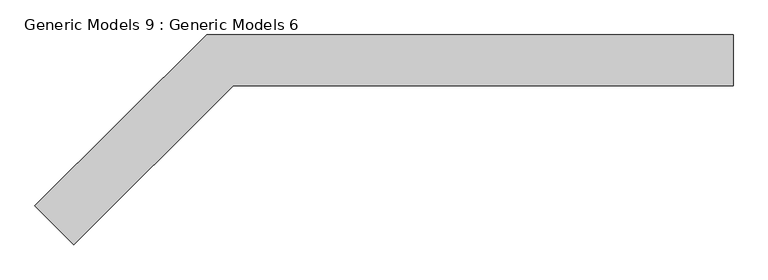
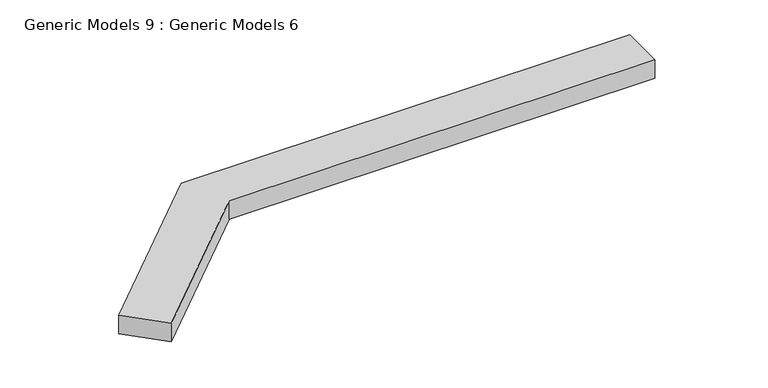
"""IFC4 building model written with IfcOpenShell, lengths in millimetres: proxy geometry, Generic Models 9 : Generic Models 6."""

import ifcopenshell
import ifcopenshell.guid

model = None  # the IFC model being written
_history = None  # IfcOwnerHistory: only IFC2X3 demands one
_inside = {}  # id of a spatial element -> (the spatial element, [elements in it])
_under = {}  # id of a project, library or spatial element -> (it, [spatial elements below it])
_declared = {}  # id of a project -> (the project, [libraries it declares])
_typed = {}  # id of a type object -> (the type object, [elements of that type])
_made_of = {}  # id of a material, layer set ... -> (it, [elements and type objects made of it])


def new_model(schema):
    """Start an empty IFC model of exactly this schema.

    Asked for "IFC4X3", IfcOpenShell would pick the latest addendum, in which some entities
    have other attributes; the version numbers below select the first issue.
    IFC2X3 requires an IfcOwnerHistory on every rooted entity: one is made here for all.
    """
    global model, _history
    if schema == "IFC4X3":
        model = ifcopenshell.file(schema_version=(4, 3, 0, 0))
    else:
        model = ifcopenshell.file(schema=schema)
    _inside.clear()
    _under.clear()
    _declared.clear()
    _typed.clear()
    _made_of.clear()
    _history = None
    if model.schema == "IFC2X3":
        org = make("IfcOrganization", Name="unknown")
        user = make(
            "IfcPersonAndOrganization",
            ThePerson=make("IfcPerson", FamilyName="unknown"),
            TheOrganization=org,
        )
        app = make(
            "IfcApplication",
            ApplicationDeveloper=org,
            Version="unknown",
            ApplicationFullName="unknown",
            ApplicationIdentifier="unknown",
        )
        _history = make(
            "IfcOwnerHistory",
            OwningUser=user,
            OwningApplication=app,
            ChangeAction="ADDED",
            CreationDate=0,
        )
    return model


def make(cls, **values):
    """One entity of the class cls with the attributes given. An attribute that is None is left unset."""
    return model.create_entity(
        cls, **{name: value for name, value in values.items() if value is not None}
    )


def rooted(cls, **values):
    """An entity with a GlobalId (a new one), such as an element, a storey or a relation."""
    return make(cls, GlobalId=ifcopenshell.guid.new(), OwnerHistory=_history, **values)


def si_unit(unit_type, name, prefix=None):
    """IfcSIUnit, for example si_unit("LENGTHUNIT", "METRE", prefix="MILLI")."""
    return make("IfcSIUnit", UnitType=unit_type, Prefix=prefix, Name=name)


def assignment(units):
    """IfcUnitAssignment: the units of a project."""
    return None if units is None else make("IfcUnitAssignment", Units=units)


def point(xyz):
    """IfcCartesianPoint."""
    return None if xyz is None else make("IfcCartesianPoint", Coordinates=xyz)


def direction(xyz):
    """IfcDirection."""
    return None if xyz is None else make("IfcDirection", DirectionRatios=xyz)


def frame(location, z_axis=None, x_axis=None):
    """IfcAxis2Placement3D, a coordinate frame: its origin and axes. An axis left out is left unset."""
    return make(
        "IfcAxis2Placement3D",
        Location=point(location),
        Axis=direction(z_axis),
        RefDirection=direction(x_axis),
    )


def origin():
    """The frame at (0, 0, 0) with its axes left unset."""
    return frame((0.0, 0.0, 0.0))


def place(relative_to, where):
    """IfcLocalPlacement: puts the frame where relative to a parent placement (None: the world)."""
    return make(
        "IfcLocalPlacement", PlacementRelTo=relative_to, RelativePlacement=where
    )


def context(
    kind, dimensions, precision=None, world=None, true_north=None, identifier=None
):
    """IfcGeometricRepresentationContext, for example the 3D "Model" context."""
    return make(
        "IfcGeometricRepresentationContext",
        ContextIdentifier=identifier,
        ContextType=kind,
        CoordinateSpaceDimension=dimensions,
        Precision=precision,
        WorldCoordinateSystem=world,
        TrueNorth=true_north,
    )


def project(units=None, contexts=None):
    """IfcProject with its units and contexts."""
    return rooted(
        "IfcProject",
        Name="project",
        RepresentationContexts=contexts,
        UnitsInContext=assignment(units),
    )


def spatial(cls, under=None, at=None, **own):
    """A site, building, storey or space (cls), placed at a placement, below another one or the project."""
    s = rooted(cls, ObjectPlacement=at, **own)
    if under is not None:
        _under.setdefault(under.id(), (under, []))[1].append(s)
    return s


def polyline(points):
    """IfcPolyline through the points."""
    return make("IfcPolyline", Points=[point(p) for p in points])


def outline(outer, holes=None, kind="AREA"):
    """IfcArbitraryClosedProfileDef: a profile drawn as a closed curve; with holes, ...WithVoids."""
    if holes is None:
        return make("IfcArbitraryClosedProfileDef", ProfileType=kind, OuterCurve=outer)
    return make(
        "IfcArbitraryProfileDefWithVoids",
        ProfileType=kind,
        OuterCurve=outer,
        InnerCurves=holes,
    )


def extrude(swept, where, along, depth):
    """IfcExtrudedAreaSolid: the profile swept, set in the frame where, extruded along a direction by depth."""
    return make(
        "IfcExtrudedAreaSolid",
        SweptArea=swept,
        Position=where,
        ExtrudedDirection=direction(along),
        Depth=depth,
    )


def shape(context_of_items, identifier, shape_type, items):
    """IfcShapeRepresentation: the items that make up one representation, for example the "Body"."""
    return make(
        "IfcShapeRepresentation",
        ContextOfItems=context_of_items,
        RepresentationIdentifier=identifier,
        RepresentationType=shape_type,
        Items=items,
    )


def source(mapping_origin, context_of_items, identifier, shape_type, items):
    """IfcRepresentationMap: a shape defined once, which mapped items show again and again."""
    return make(
        "IfcRepresentationMap",
        MappingOrigin=mapping_origin,
        MappedRepresentation=shape(context_of_items, identifier, shape_type, items),
    )


def transform(
    local_origin,
    x_axis=None,
    y_axis=None,
    z_axis=None,
    scale=None,
    scale2=None,
    scale3=None,
    uniform=True,
):
    """IfcCartesianTransformationOperator3D, or its non-uniform kind. x_axis, y_axis, z_axis: its Axis1, 2, 3."""
    if uniform:
        return make(
            "IfcCartesianTransformationOperator3D",
            Axis1=direction(x_axis),
            Axis2=direction(y_axis),
            LocalOrigin=point(local_origin),
            Scale=scale,
            Axis3=direction(z_axis),
        )
    return make(
        "IfcCartesianTransformationOperator3DnonUniform",
        Axis1=direction(x_axis),
        Axis2=direction(y_axis),
        LocalOrigin=point(local_origin),
        Scale=scale,
        Axis3=direction(z_axis),
        Scale2=scale2,
        Scale3=scale3,
    )


def mapped(mapping_source, mapping_target):
    """IfcMappedItem: shows the shape of a source again, moved by a transform."""
    return make(
        "IfcMappedItem", MappingSource=mapping_source, MappingTarget=mapping_target
    )


def made_of(thing, what):
    """Note that an element or type object is made of a material, layer set ...; save() writes the relation."""
    if what is not None:
        _made_of.setdefault(what.id(), (what, []))[1].append(thing)
    return thing


def element(
    cls,
    number,
    at=None,
    inside=None,
    cuts=None,
    type_object=None,
    material=None,
    context=None,
    identifier="Body",
    shape_type=None,
    held_by="IfcProductDefinitionShape",
    body=None,
    shapes=None,
    **own,
):
    """One element of the class cls, such as IfcWall. Its Tag is "e" and its number.

    at: its placement. inside: the storey or other place that contains it. cuts: it is an
    opening in that element (IfcRelVoidsElement). A single representation is given by context,
    identifier, shape_type and body (its items); several are given by shapes. held_by: the class
    of the entity that holds the representations. save() writes the other relations.
    """
    e = rooted(cls, Tag="e%d" % number, ObjectPlacement=at, **own)
    if body is not None:
        shapes = [shape(context, identifier, shape_type, body)]
    if shapes is not None:
        e.Representation = make(held_by, Representations=shapes)
    if inside is not None:
        _inside.setdefault(inside.id(), (inside, []))[1].append(e)
    if cuts is not None:
        rooted(
            "IfcRelVoidsElement", RelatingBuildingElement=cuts, RelatedOpeningElement=e
        )
    if type_object is not None:
        _typed.setdefault(type_object.id(), (type_object, []))[1].append(e)
    return made_of(e, material)


def aggregate(whole, parts):
    """IfcRelAggregates: a whole, such as a stair, and the parts it consists of."""
    return rooted("IfcRelAggregates", RelatingObject=whole, RelatedObjects=parts)


def save(model, path):
    """Write the relations noted so far, then the file.

    IfcRelAggregates (storeys below a building ...), IfcRelContainedInSpatialStructure (elements
    in a storey), IfcRelDefinesByType, IfcRelAssociatesMaterial and IfcRelDeclares: one each for
    every whole, place, type object, material and project.
    """
    for whole, parts in _under.values():
        aggregate(whole, parts)
    for where, things in _inside.values():
        rooted(
            "IfcRelContainedInSpatialStructure",
            RelatedElements=things,
            RelatingStructure=where,
        )
    for kind, things in _typed.values():
        rooted("IfcRelDefinesByType", RelatedObjects=things, RelatingType=kind)
    for what, things in _made_of.values():
        rooted("IfcRelAssociatesMaterial", RelatedObjects=things, RelatingMaterial=what)
    for by, libraries in _declared.values():
        rooted("IfcRelDeclares", RelatingContext=by, RelatedDefinitions=libraries)
    model.write(path)


def generic_models_9_generic_models_6_f3774412(model_context):
    return source(origin(), model_context, "Body", "SweptSolid", [
        extrude(outline(polyline([(161.7643441, 11633.2), (-196.3205335, 11277.0705335), (-283.6268132, 11364.3768132), (101.6, 11747.5), (1282.7, 11747.5), (1282.7, 11633.2), (161.7643441, 11633.2)])), frame((0.0, 0.0, 3348.0), z_axis=(0.0, 0.0, 1.0), x_axis=(1.0, 0.0, 0.0)), (0.0, 0.0, 1.0), 50.8),
    ])


if __name__ == "__main__":
    model = new_model("IFC4")
    model_context = context("Model", 3, world=origin())
    ifc_project = project(units=[si_unit("LENGTHUNIT", "METRE", prefix="MILLI")], contexts=[model_context])
    site = spatial("IfcSite", under=ifc_project)
    building = spatial("IfcBuilding", under=site)
    placement = place(None, origin())
    generic_models_9_generic_models_6_shape = generic_models_9_generic_models_6_f3774412(model_context)
    element("IfcBuildingElementProxy", 1, Name="Generic Models 9 : Generic Models 6", ObjectType="Generic Models 9 : Generic Models 6", at=placement, inside=building, context=model_context, shape_type="MappedRepresentation", body=[
        mapped(generic_models_9_generic_models_6_shape, transform((0.0, 0.0, 0.0), x_axis=(1.0, 0.0, 0.0), y_axis=(0.0, 1.0, 0.0), z_axis=(0.0, 0.0, 1.0))),
    ])
    save(model, "model.ifc")
